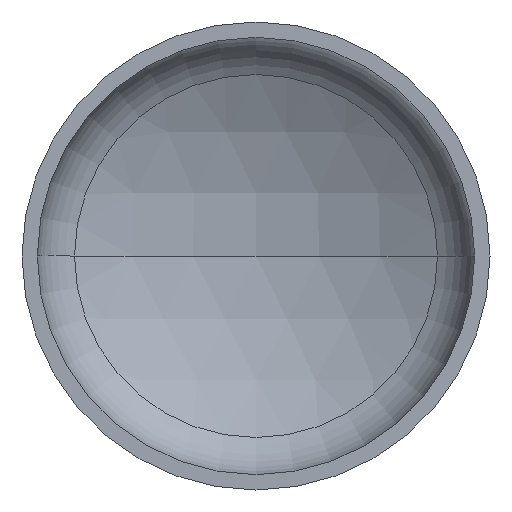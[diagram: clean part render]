
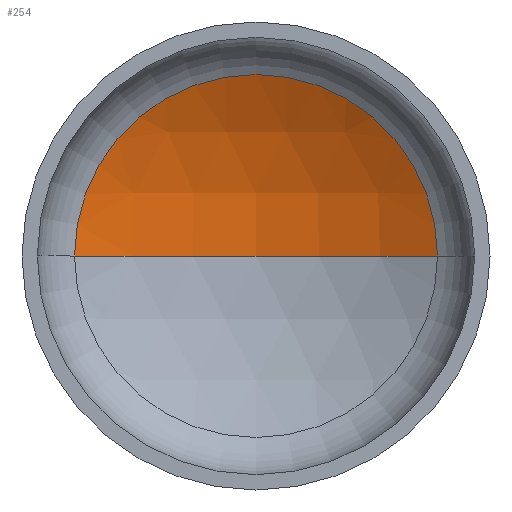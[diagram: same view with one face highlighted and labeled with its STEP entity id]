
A CAD part, front view. The second image highlights one B-rep face of the part: STEP entity #254.
In plain terms, the highlighted spherical face has radius 2880 mm.
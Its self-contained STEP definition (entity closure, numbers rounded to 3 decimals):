
#18 = VERTEX_POINT ( 'NONE', #237 ) ;
#25 = EDGE_LOOP ( 'NONE', ( #134, #114, #79 ) ) ;
#31 = DIRECTION ( 'NONE',  ( 1., 0., 0. ) ) ;
#35 = AXIS2_PLACEMENT_3D ( 'NONE', #48, #170, #176 ) ;
#48 = CARTESIAN_POINT ( 'NONE',  ( 0., -1958.592, 0. ) ) ;
#53 = CIRCLE ( 'NONE', #68, 2880. ) ;
#67 = AXIS2_PLACEMENT_3D ( 'NONE', #244, #191, #195 ) ;
#68 = AXIS2_PLACEMENT_3D ( 'NONE', #264, #220, #173 ) ;
#71 = AXIS2_PLACEMENT_3D ( 'NONE', #161, #373, #31 ) ;
#79 = ORIENTED_EDGE ( 'NONE', *, *, #146, .T. ) ;
#114 = ORIENTED_EDGE ( 'NONE', *, *, #151, .T. ) ;
#134 = ORIENTED_EDGE ( 'NONE', *, *, #159, .F. ) ;
#144 = VERTEX_POINT ( 'NONE', #180 ) ;
#146 = EDGE_CURVE ( 'NONE', #18, #144, #183, .T. ) ;
#151 = EDGE_CURVE ( 'NONE', #393, #18, #53, .T. ) ;
#159 = EDGE_CURVE ( 'NONE', #393, #144, #251, .T. ) ;
#161 = CARTESIAN_POINT ( 'NONE',  ( 0., 560.438, 0. ) ) ;
#170 = DIRECTION ( 'NONE',  ( 0., 0., -1. ) ) ;
#173 = DIRECTION ( 'NONE',  ( -1., 0., 0. ) ) ;
#176 = DIRECTION ( 'NONE',  ( -1., 0., 0. ) ) ;
#177 = FACE_OUTER_BOUND ( 'NONE', #25, .T. ) ;
#180 = CARTESIAN_POINT ( 'NONE',  ( -1396.026, 560.438, 0. ) ) ;
#183 = CIRCLE ( 'NONE', #71, 1396.026 ) ;
#191 = DIRECTION ( 'NONE',  ( 0., 0., 1. ) ) ;
#195 = DIRECTION ( 'NONE',  ( 1., 0., 0. ) ) ;
#220 = DIRECTION ( 'NONE',  ( 0., 0., -1. ) ) ;
#225 = CARTESIAN_POINT ( 'NONE',  ( 0., 921.408, 0. ) ) ;
#237 = CARTESIAN_POINT ( 'NONE',  ( 1396.026, 560.438, 0. ) ) ;
#244 = CARTESIAN_POINT ( 'NONE',  ( 0., -1958.592, 0. ) ) ;
#251 = CIRCLE ( 'NONE', #67, 2880. ) ;
#254 = ADVANCED_FACE ( 'NONE', ( #177 ), #350, .F. ) ;
#264 = CARTESIAN_POINT ( 'NONE',  ( 0., -1958.592, 0. ) ) ;
#350 = SPHERICAL_SURFACE ( 'NONE', #35, 2880. ) ;
#373 = DIRECTION ( 'NONE',  ( 0., -1., 0. ) ) ;
#393 = VERTEX_POINT ( 'NONE', #225 ) ;
